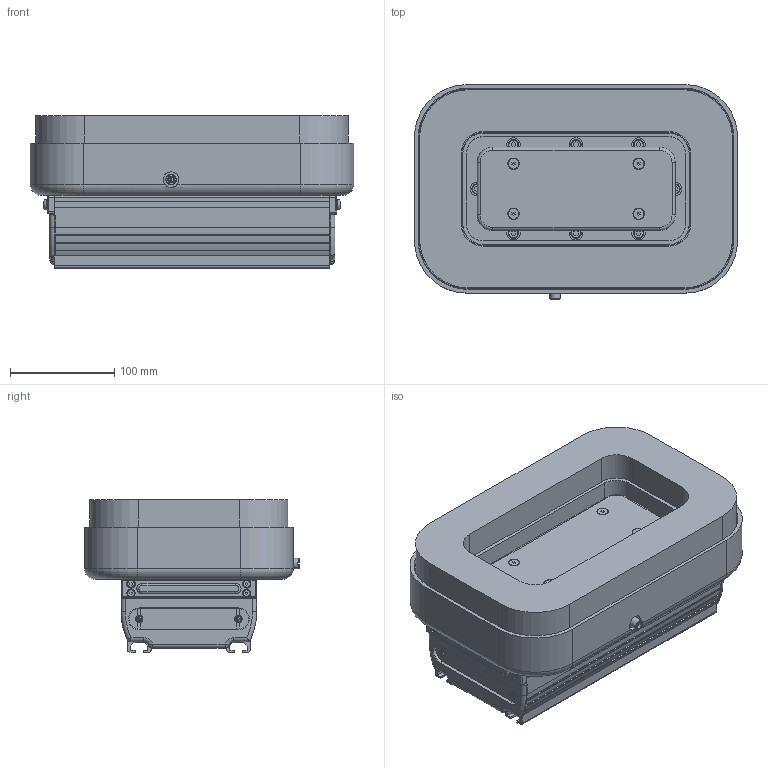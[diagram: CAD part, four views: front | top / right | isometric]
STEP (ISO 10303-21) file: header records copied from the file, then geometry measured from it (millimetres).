
FILE_DESCRIPTION(('STEP AP214'),'1');
FILE_NAME('.stp','2021-08-19T02:56:26',(' '),(' '),'Spatial InterOp 3D',' ',' ');
FILE_SCHEMA(('AUTOMOTIVE_DESIGN { 1 0 10303 214 1 1 1 1 }'));
Length unit declared in the file: millimetre
Products named in the file (88): SGP-190X300-CRT30; Base S; S ring; Spomzi; CB6; ねじ: 穴付き - M6.0 x 20.0; Body Assy; SGP-000-3104(サイドカバーA); SGP-000-3106(上面カバー); M4*10_____; _NKJ4-10; SGP-000-3105(サイドカバーB); M4*12 __________; M4*12 シールキャップボルト; CTX-0429-3001 Body; プラグ; shaft 03; ねじ: 穴付き - M6.0 x 12.0; stopper; Needle Assy; Needle; LockNut; CBSTS6-12; SGP-_____; CTX-0418-3000; CTX-0418-3001; _____; CVZ Assy; SGP-000-3050(供給ベース); M4*45; _FCBS4-40-10; M4*45_____
Assembly tree (88 placements, depth 5):
  SGP-190X300-CRT30
    Base S
    S ring
    Spomzi
    CB6
      ねじ: 穴付き - M6.0 x 20.0
    CB6
      ねじ: 穴付き - M6.0 x 20.0
    CB6
      ねじ: 穴付き - M6.0 x 20.0
    CB6
      ねじ: 穴付き - M6.0 x 20.0
    CB6
      ねじ: 穴付き - M6.0 x 20.0
    CB6
      ねじ: 穴付き - M6.0 x 20.0
    Body Assy
      SGP-000-3104(サイドカバーA)
      SGP-000-3106(上面カバー)
      M4*10_____
        _NKJ4-10
        _NKJ4-10
      M4*10_____
        _NKJ4-10
        _NKJ4-10
      SGP-000-3105(サイドカバーB)
      SGP-000-3105(サイドカバーB)
      M4*12 __________
        M4*12 シールキャップボルト
        M4*12 シールキャップボルト
        M4*12 シールキャップボルト
        M4*12 シールキャップボルト
      SGP-000-3104(サイドカバーA)
      M4*12 __________
        M4*12 シールキャップボルト
        M4*12 シールキャップボルト
        M4*12 シールキャップボルト
        M4*12 シールキャップボルト
      CTX-0429-3001 Body
      プラグ
    shaft 03
    CB6
      ねじ: 穴付き - M6.0 x 12.0
    CB6
      ねじ: 穴付き - M6.0 x 12.0
    CB6
      ねじ: 穴付き - M6.0 x 12.0
    CB6
      ねじ: 穴付き - M6.0 x 12.0
    CB6
      ねじ: 穴付き - M6.0 x 12.0
    CB6
      ねじ: 穴付き - M6.0 x 12.0
    CB6
      ねじ: 穴付き - M6.0 x 12.0
    CB6
      ねじ: 穴付き - M6.0 x 12.0
    shaft 03
    shaft 03
    shaft 03
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Bounding box: 310 x 206 x 146.2 mm (x, y, z)
Volume: 4174025.4 mm3; surface area: 904224.4 mm2
Topology: 58 solids, 58 shells, 1479 faces, 3386 edges, 2172 vertices
Faces by surface type: plane 879, cylinder 433, cone 115, torus 42, sphere 10
Full cylindrical faces by diameter (mm): 3 x4, 3.3 x6, 3.35 x1, 3.571 x4, 4 x30, 4.5 x8, 4.9 x2, 5 x8, 5.5 x8, 6 x41, 6.5 x1, 7 x33, 8 x8, 9 x1, 9.4 x2, 9.87 x14, 10 x7, 11 x4, 11.4 x2, 11.8 x2, 12 x7, 13 x12, 13.6 x4, 13.85 x4, 14.5 x4, 15 x15, 16 x4, 20 x4
Entity records: 52283 total; most frequent: CARTESIAN_POINT 7081, DIRECTION 7027, ORIENTED_EDGE 5720, EDGE_CURVE 2860, AXIS2_PLACEMENT_3D 2668, EDGE_LOOP 2053, VERTEX_POINT 2049, LINE 1691
